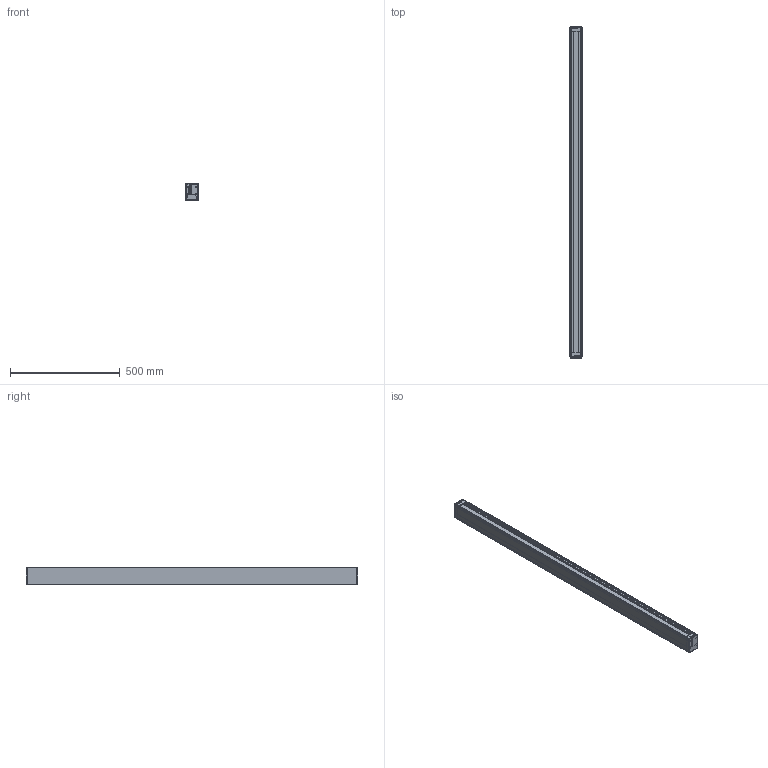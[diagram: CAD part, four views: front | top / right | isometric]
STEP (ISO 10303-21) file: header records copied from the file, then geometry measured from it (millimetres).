
FILE_DESCRIPTION(/* description */ (''),/* implementation_level */ '2;1');
FILE_NAME(/* name */ 'KISSL1~1',/* time_stamp */ '2026-04-27T16:00:07+02:00',/* author */ (''),/* organization */ (''),/* preprocessor_version */ 'ST-DEVELOPER v16.5',/* originating_system */ '',/* authorisation */ '');
FILE_SCHEMA (('AUTOMOTIVE_DESIGN'));
Products named in the file (1): Document
Bounding box: 55 x 1513.48 x 75 mm (x, y, z)
Volume: 643400.9 mm3; surface area: 1287546.4 mm2
Topology: 7 solids, 7 shells, 2006 faces, 5654 edges, 3662 vertices
Faces by surface type: bspline 2006
Entity records: 162340 total; most frequent: CARTESIAN_POINT 91292, B_SPLINE_CURVE_WITH_KNOTS 14838, ORIENTED_EDGE 11284, PCURVE 11284, DEFINITIONAL_REPRESENTATION 11284, SURFACE_CURVE 5642, EDGE_CURVE 5642, VERTEX_POINT 3662
